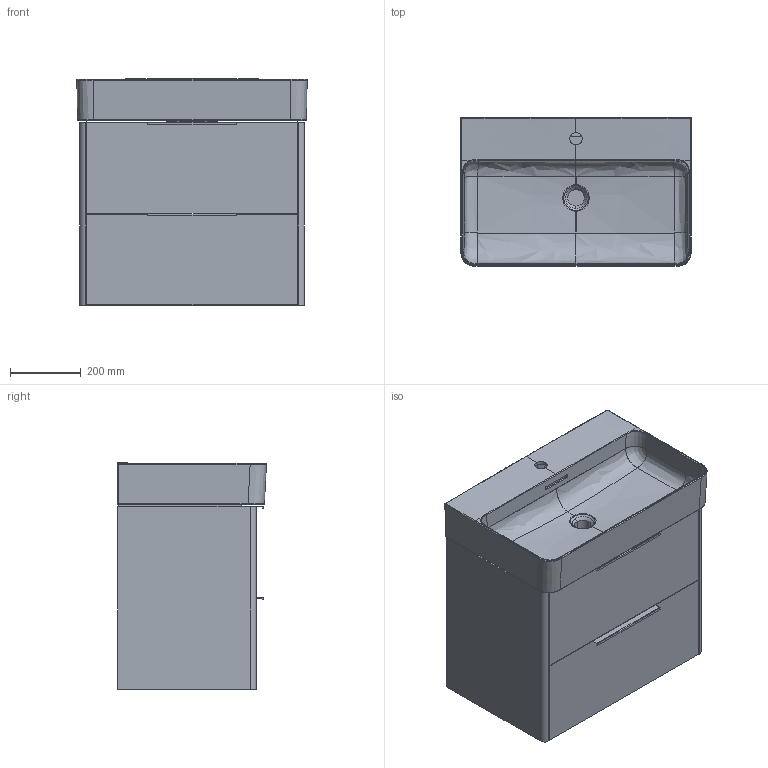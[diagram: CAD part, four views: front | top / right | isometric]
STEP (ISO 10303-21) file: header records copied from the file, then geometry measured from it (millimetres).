
FILE_DESCRIPTION(/* description */ (''),/* implementation_level */ '2;1');
FILE_NAME(/* name */ 'C:\Users\User33\Desktop\Base\3D01_402312.stp',/* time_stamp */ '2018-05-05T14:42:43+02:00',/* author */ ('User33'),/* organization */ (''),/* preprocessor_version */ 'ST-DEVELOPER v16.13',/* originating_system */ 'Autodesk Inventor 2018',/* authorisation */ '');
FILE_SCHEMA (('AUTOMOTIVE_DESIGN { 1 0 10303 214 3 1 1 }'));
Products named in the file (24): Scheletro monoblocco curvo 635; Catena_superiore; Frontale cassetto superiore; Catena inferiore; Fianco sx; Fianco dx; Fondo mobile; Fondo cassetto superiore; Fondo cassetto inferiore; Retro cassetto superiore; Fascia rialzo; Retro_cassetto inferiore; Frontale cassetto inferiore; Maniglia superiore; maniglia inferiore; 300-84; 300-84_1; 300-84_2; 300-84_3; 300-84_MIR3; 300-84_1_MIR3; 300-84_2_MIR3; 300-84_3_MIR3; HY10284......1_A
Assembly tree (25 placements, depth 3):
  Scheletro monoblocco curvo 635
    Catena_superiore
    Frontale cassetto superiore
    Catena inferiore
    Fianco sx
    Fianco dx
    Fondo mobile
    Fondo cassetto superiore
    Fondo cassetto inferiore
    Retro cassetto superiore
    Fascia rialzo
    Retro_cassetto inferiore
    Frontale cassetto inferiore
    Maniglia superiore
    maniglia inferiore
    300-84  x2
      300-84_1
      300-84_2
      300-84_3
    300-84_MIR3  x2
      300-84_1_MIR3
      300-84_2_MIR3
      300-84_3_MIR3
    HY10284......1_A
Bounding box: 649.91 x 419.95 x 638.92 mm (x, y, z)
Volume: 26049485.4 mm3; surface area: 4815910.7 mm2
Topology: 28 solids, 548 shells, 1491 faces, 5076 edges, 4186 vertices
Faces by surface type: plane 825, bspline 335, cylinder 308, torus 11, cone 6, sphere 6
Full cylindrical faces by diameter (mm): 4 x8, 4.1 x4, 5 x8, 5.1 x4, 6 x8, 6.3 x48
Entity records: 109022 total; most frequent: CARTESIAN_POINT 77230, DIRECTION 5481, ORIENTED_EDGE 5250, EDGE_CURVE 3843, VERTEX_POINT 3402, AXIS2_PLACEMENT_3D 1899, LINE 1683, VECTOR 1683
